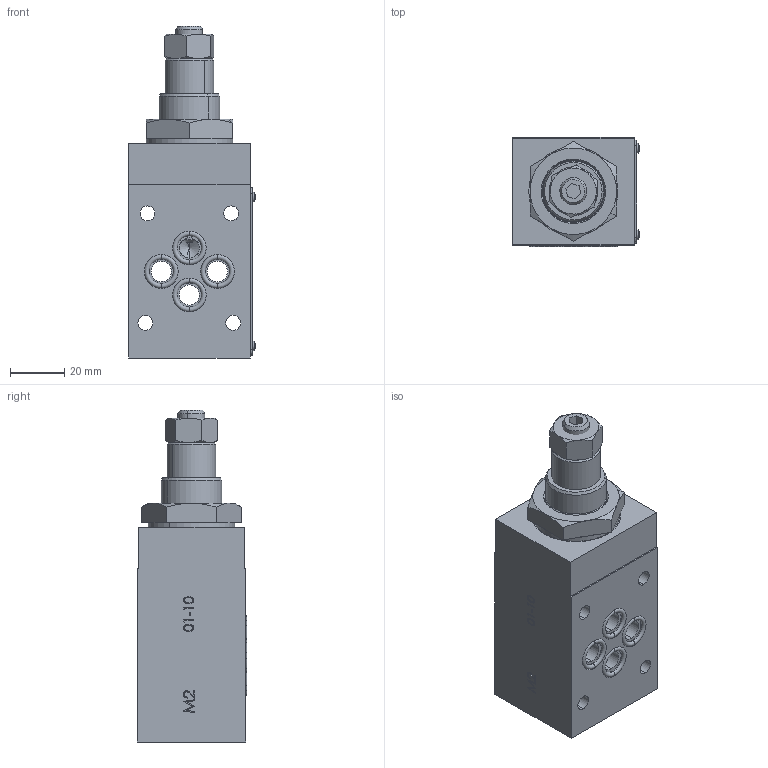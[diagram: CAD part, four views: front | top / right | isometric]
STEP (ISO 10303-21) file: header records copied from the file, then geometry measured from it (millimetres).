
FILE_DESCRIPTION (( 'STEP AP214' ), '1' );
FILE_NAME ('FT358-5-A-03-H.STEP', '2014-06-18T06:28:00', ( '' ), ( '' ), 'SwSTEP 2.0', 'SolidWorks 2014', '' );
FILE_SCHEMA (( 'AUTOMOTIVE_DESIGN' ));
Length unit declared in the file: millimetre
Products named in the file (17): FT358-5-A-03-H; 358-5AB012000; OR2037; OR2068; OR132; AnelloFermoFT1251_2-01-12; 257-6-009000-38; 267-5-002001-38; 267-5-008001-38; 358-5-AB017000; 267-5-018000-38; OR2018; BK2018; 357-5-AB101000; RivettoTarga; 358-5-A015000-H; 357-5-A001000-H
Assembly tree (22 placements, depth 2):
  FT358-5-A-03-H
    357-5-A001000-H
    358-5-A015000-H
    RivettoTarga  x4
    357-5-AB101000
    BK2018
    OR2018
    267-5-018000-38
    358-5-AB017000
    267-5-008001-38
    267-5-002001-38
    257-6-009000-38
    AnelloFermoFT1251_2-01-12
    OR132
    OR2068
    OR2037  x4
    358-5AB012000
Bounding box: 46.96 x 40.38 x 122.8 mm (x, y, z)
Volume: 147728 mm3; surface area: 49775.9 mm2
Topology: 22 solids, 22 shells, 1785 faces, 4503 edges, 2920 vertices
Faces by surface type: plane 977, bspline 376, cylinder 254, cone 138, torus 40
Entity records: 89350 total; most frequent: CARTESIAN_POINT 35711, ORIENTED_EDGE 8786, DIRECTION 6825, EDGE_CURVE 4393, VECTOR 2965, LINE 2965, VERTEX_POINT 2866, EDGE_LOOP 1965
